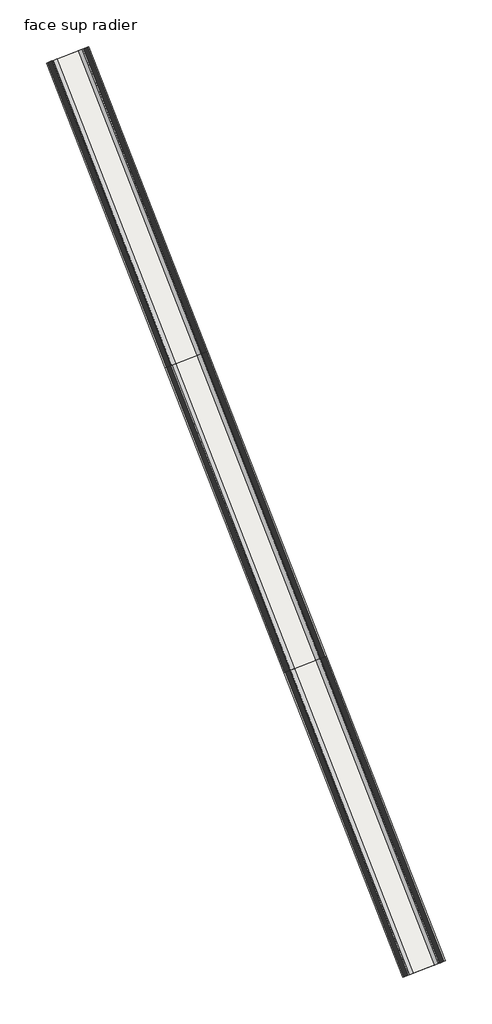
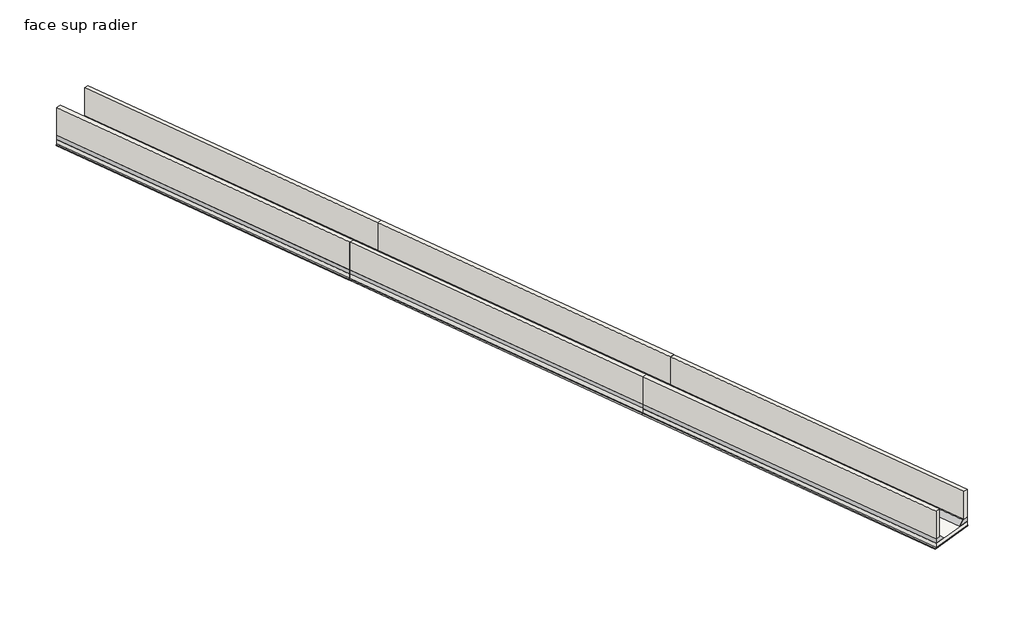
# One storey: 6 proxies, 6 slabs, 6 walls.
"""IFC4 building model written with IfcOpenShell, lengths in millimetres."""

from ifc_helpers import new_model, si_unit, frame, origin, place, context, project, spatial, polyline, outline, extrude, transform, mapped, element, save
from components import generic_models_72a42a46, generic_models_eec6437c

model = new_model("IFC4")

# Units and contexts
model_context = context("Model", 3, world=origin())
ifc_project = project(units=[si_unit("LENGTHUNIT", "METRE", prefix="MILLI")], contexts=[model_context])

# Site, building, storey
site = spatial("IfcSite", under=ifc_project)
building = spatial("IfcBuilding", under=site)
storey = spatial("IfcBuildingStorey", under=building, Name="face sup radier", Elevation=0.0)

# Proxies
placement = place(None, origin())
generic_models_shape = generic_models_72a42a46(model_context)
element("IfcBuildingElementProxy", 1, Name="Gousset radier bord droit : Gousset radier bord droit", ObjectType="Gousset radier bord droit : Gousset radier bord droit", at=placement, inside=storey, context=model_context, shape_type="MappedRepresentation", body=[
    mapped(generic_models_shape, transform((19414.9670882, -24114.5685686, 0.0), x_axis=(0.36332202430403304, -0.9316636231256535, 0.0), y_axis=(0.9316636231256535, 0.36332202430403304, 0.0), z_axis=(0.0, 0.0, 1.0))),
])
element("IfcBuildingElementProxy", 2, Name="Gousset radier bord droit : Gousset radier bord droit", ObjectType="Gousset radier bord droit : Gousset radier bord droit", at=placement, inside=storey, context=model_context, shape_type="MappedRepresentation", body=[
    mapped(generic_models_shape, transform((28686.9451499, -47890.6242347, 0.0), x_axis=(0.3633220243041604, -0.9316636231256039, 0.0), y_axis=(0.9316636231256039, 0.3633220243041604, 0.0), z_axis=(0.0, 0.0, 1.0))),
])
element("IfcBuildingElementProxy", 3, Name="Gousset radier bord droit : Gousset radier bord droit", ObjectType="Gousset radier bord droit : Gousset radier bord droit", at=placement, inside=storey, context=model_context, shape_type="MappedRepresentation", body=[
    mapped(generic_models_shape, transform((37958.9232117, -71666.6799007, 0.0), x_axis=(0.3633220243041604, -0.9316636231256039, 0.0), y_axis=(0.9316636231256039, 0.3633220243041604, 0.0), z_axis=(0.0, 0.0, 1.0))),
])
generic_models_2_shape = generic_models_eec6437c(model_context)
element("IfcBuildingElementProxy", 4, Name="Gousset radier bord droit : Gousset radier bord droit", ObjectType="Gousset radier bord droit : Gousset radier bord droit", at=placement, inside=storey, context=model_context, shape_type="MappedRepresentation", body=[
    mapped(generic_models_2_shape, transform((22537.7386278, -22896.7774592, 0.0), x_axis=(0.3633220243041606, -0.9316636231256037, 0.0), y_axis=(0.9316636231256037, 0.3633220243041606, 0.0), z_axis=(0.0, 0.0, 1.0))),
])
element("IfcBuildingElementProxy", 5, Name="Gousset radier bord droit : Gousset radier bord droit", ObjectType="Gousset radier bord droit : Gousset radier bord droit", at=placement, inside=storey, context=model_context, shape_type="MappedRepresentation", body=[
    mapped(generic_models_2_shape, transform((31809.7166896, -46672.8331252, 0.0), x_axis=(0.3633220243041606, -0.9316636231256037, 0.0), y_axis=(0.9316636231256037, 0.3633220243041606, 0.0), z_axis=(0.0, 0.0, 1.0))),
])
element("IfcBuildingElementProxy", 6, Name="Gousset radier bord droit : Gousset radier bord droit", ObjectType="Gousset radier bord droit : Gousset radier bord droit", at=placement, inside=storey, context=model_context, shape_type="MappedRepresentation", body=[
    mapped(generic_models_2_shape, transform((41081.6947513, -70448.8887913, 0.0), x_axis=(0.3633220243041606, -0.9316636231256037, 0.0), y_axis=(0.9316636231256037, 0.3633220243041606, 0.0), z_axis=(0.0, 0.0, 1.0))),
])

# Slabs
element("IfcSlab", 7, ObjectType="Dalle en béton - 350 mm", at=placement, inside=storey, context=model_context, shape_type="SweptSolid", body=[
    extrude(outline(polyline([(22536.8894183, -22897.1086265), (31801.6010385, -46654.5310175), (28679.6787084, -47871.9909596), (19414.9670882, -24114.5685686), (22536.8894183, -22897.1086265)])), frame((0.0, 0.0, -350.0), z_axis=(0.0, 0.0, 1.0), x_axis=(1.0, 0.0, 0.0)), (0.0, 0.0, 1.0), 350.0),
])
element("IfcSlab", 8, ObjectType="Dalle en béton - 350 mm", at=placement, inside=storey, context=model_context, shape_type="SweptSolid", body=[
    extrude(outline(polyline([(31808.86748, -46673.1642925), (41073.5791003, -70430.5866835), (37951.6567702, -71648.0466256), (28686.9451499, -47890.6242347), (31808.86748, -46673.1642925)])), frame((0.0, 0.0, -350.0), z_axis=(0.0, 0.0, 1.0), x_axis=(1.0, 0.0, 0.0)), (0.0, 0.0, 1.0), 350.0),
])
element("IfcSlab", 9, ObjectType="Dalle en béton - 350 mm", at=placement, inside=storey, context=model_context, shape_type="SweptSolid", body=[
    extrude(outline(polyline([(41080.8455418, -70449.2199586), (50345.557162, -94206.6423495), (47223.6348319, -95424.1022917), (37958.9232117, -71666.6799007), (41080.8455418, -70449.2199586)])), frame((0.0, 0.0, -350.0), z_axis=(0.0, 0.0, 1.0), x_axis=(1.0, 0.0, 0.0)), (0.0, 0.0, 1.0), 350.0),
])
element("IfcSlab", 10, ObjectType="Béton de propreté 100 mm", at=placement, inside=storey, context=model_context, shape_type="SweptSolid", body=[
    extrude(outline(polyline([(22630.9049902, -22860.4452567), (31894.7674009, -46618.198815), (28586.5123461, -47908.323162), (19321.8007258, -24150.900771), (22630.9049902, -22860.4452567)])), frame((0.0, 0.0, -450.0), z_axis=(0.0, 0.0, 1.0), x_axis=(1.0, 0.0, 0.0)), (0.0, 0.0, 1.0), 100.0),
])
element("IfcSlab", 11, ObjectType="Béton de propreté 100 mm", at=placement, inside=storey, context=model_context, shape_type="SweptSolid", body=[
    extrude(outline(polyline([(31902.8830519, -46636.5009228), (41166.7454626, -70394.254481), (37858.4904078, -71684.3788281), (28593.7787876, -47926.9564371), (31902.8830519, -46636.5009228)])), frame((0.0, 0.0, -450.0), z_axis=(0.0, 0.0, 1.0), x_axis=(1.0, 0.0, 0.0)), (0.0, 0.0, 1.0), 100.0),
])
element("IfcSlab", 12, ObjectType="Béton de propreté 100 mm", at=placement, inside=storey, context=model_context, shape_type="SweptSolid", body=[
    extrude(outline(polyline([(41174.8611137, -70412.5565888), (50438.7235244, -94170.3101471), (47130.4684696, -95460.4344941), (37865.7568493, -71703.0121031), (41174.8611137, -70412.5565888)])), frame((0.0, 0.0, -450.0), z_axis=(0.0, 0.0, 1.0), x_axis=(1.0, 0.0, 0.0)), (0.0, 0.0, 1.0), 100.0),
])

# Walls
element("IfcWall", 13, ObjectType="Voile BA 350 mm", at=placement, inside=storey, context=model_context, shape_type="SweptSolid", body=[
    extrude(outline(polyline([(31476.36798, -46781.3625587), (22211.6563597, -23023.9401677), (22537.7386278, -22896.7774592), (31802.4502481, -46654.1998502), (31476.36798, -46781.3625587)])), frame((0.0, 0.0, 350.0), z_axis=(0.0, 0.0, 1.0), x_axis=(1.0, 0.0, 0.0)), (0.0, 0.0, 1.0), 2300.0),
])
element("IfcWall", 14, ObjectType="Voile BA 350 mm", at=placement, inside=storey, context=model_context, shape_type="SweptSolid", body=[
    extrude(outline(polyline([(19741.0493563, -23987.4058601), (29005.7609765, -47744.8282511), (28679.6787084, -47871.9909596), (19414.9670882, -24114.5685686), (19741.0493563, -23987.4058601)])), frame((0.0, 0.0, 350.0), z_axis=(0.0, 0.0, 1.0), x_axis=(1.0, 0.0, 0.0)), (0.0, 0.0, 1.0), 2300.0),
])
element("IfcWall", 15, ObjectType="Voile BA 350 mm", at=placement, inside=storey, context=model_context, shape_type="SweptSolid", body=[
    extrude(outline(polyline([(40748.3460417, -70557.4182247), (31483.6344215, -46799.9958337), (31809.7166896, -46672.8331252), (41074.4283098, -70430.2555162), (40748.3460417, -70557.4182247)])), frame((0.0, 0.0, 350.0), z_axis=(0.0, 0.0, 1.0), x_axis=(1.0, 0.0, 0.0)), (0.0, 0.0, 1.0), 2300.0),
])
element("IfcWall", 16, ObjectType="Voile BA 350 mm", at=placement, inside=storey, context=model_context, shape_type="SweptSolid", body=[
    extrude(outline(polyline([(29013.027418, -47763.4615261), (38277.7390383, -71520.8839171), (37951.6567702, -71648.0466256), (28686.9451499, -47890.6242347), (29013.027418, -47763.4615261)])), frame((0.0, 0.0, 350.0), z_axis=(0.0, 0.0, 1.0), x_axis=(1.0, 0.0, 0.0)), (0.0, 0.0, 1.0), 2300.0),
])
element("IfcWall", 17, ObjectType="Voile BA 350 mm", at=placement, inside=storey, context=model_context, shape_type="SweptSolid", body=[
    extrude(outline(polyline([(50020.3241035, -94333.4738907), (40755.6124832, -70576.0514998), (41081.6947513, -70448.8887913), (50346.4063716, -94206.3111822), (50020.3241035, -94333.4738907)])), frame((0.0, 0.0, 350.0), z_axis=(0.0, 0.0, 1.0), x_axis=(1.0, 0.0, 0.0)), (0.0, 0.0, 1.0), 2300.0),
])
element("IfcWall", 18, ObjectType="Voile BA 350 mm", at=placement, inside=storey, context=model_context, shape_type="SweptSolid", body=[
    extrude(outline(polyline([(38285.0054798, -71539.5171922), (47549.7171, -95296.9395832), (47223.6348319, -95424.1022917), (37958.9232117, -71666.6799007), (38285.0054798, -71539.5171922)])), frame((0.0, 0.0, 350.0), z_axis=(0.0, 0.0, 1.0), x_axis=(1.0, 0.0, 0.0)), (0.0, 0.0, 1.0), 2300.0),
])

save(model, "model.ifc")
